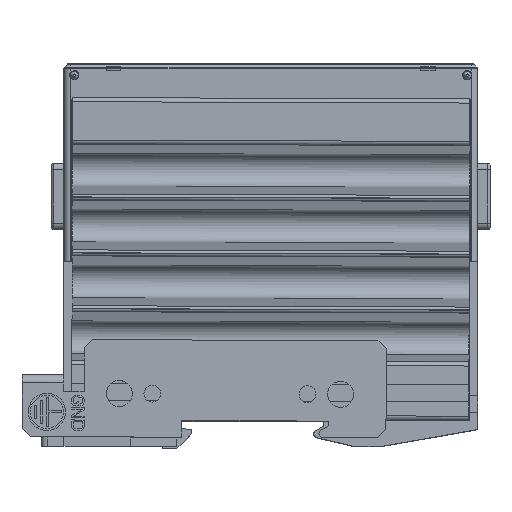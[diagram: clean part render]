
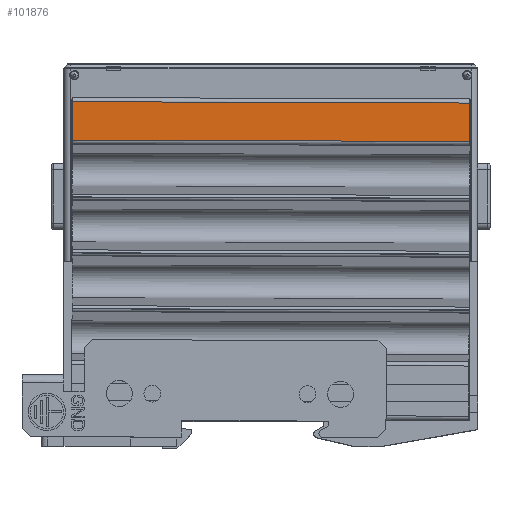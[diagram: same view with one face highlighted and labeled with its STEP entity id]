
A CAD part, top view. The second image highlights one B-rep face of the part: STEP entity #101876.
In plain terms, the highlighted planar face has unit normal (0, 0, 1) as drawn and (0, 0, -1) by its records, which use the part's own axes.
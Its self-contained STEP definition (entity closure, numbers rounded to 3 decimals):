
#89154=DIRECTION('',(-1.,0.,0.));
#89155=VECTOR('',#89154,9.284);
#89156=CARTESIAN_POINT('',(37.85,-48.,-41.5));
#89157=LINE('',#89156,#89155);
#90059=DIRECTION('',(-1.,0.,0.));
#90060=VECTOR('',#90059,9.284);
#90061=CARTESIAN_POINT('',(37.85,48.,-41.5));
#90062=LINE('',#90061,#90060);
#92930=DIRECTION('',(0.,1.,0.));
#92931=VECTOR('',#92930,96.);
#92932=CARTESIAN_POINT('',(28.566,-48.,-41.5));
#92933=LINE('',#92932,#92931);
#92934=DIRECTION('',(0.,-1.,0.));
#92935=VECTOR('',#92934,96.);
#92936=CARTESIAN_POINT('',(37.85,48.,-41.5));
#92937=LINE('',#92936,#92935);
#95028=CARTESIAN_POINT('',(28.566,48.,-41.5));
#95030=VERTEX_POINT('',#95028);
#95034=CARTESIAN_POINT('',(28.566,-48.,-41.5));
#95035=VERTEX_POINT('',#95034);
#95068=CARTESIAN_POINT('',(37.85,-48.,-41.5));
#95069=VERTEX_POINT('',#95068);
#95070=CARTESIAN_POINT('',(37.85,48.,-41.5));
#95071=VERTEX_POINT('',#95070);
#101863=CARTESIAN_POINT('',(38.85,-48.,-41.5));
#101864=DIRECTION('',(0.,0.,-1.));
#101865=DIRECTION('',(-1.,0.,0.));
#101866=AXIS2_PLACEMENT_3D('',#101863,#101864,#101865);
#101867=PLANE('',#101866);
#101869=ORIENTED_EDGE('',*,*,#101868,.F.);
#101870=ORIENTED_EDGE('',*,*,#96853,.F.);
#101872=ORIENTED_EDGE('',*,*,#101871,.F.);
#101873=ORIENTED_EDGE('',*,*,#98063,.T.);
#101874=EDGE_LOOP('',(#101869,#101870,#101872,#101873));
#101875=FACE_OUTER_BOUND('',#101874,.F.);
#96853=EDGE_CURVE('',#95069,#95035,#89157,.T.);
#98063=EDGE_CURVE('',#95071,#95030,#90062,.T.);
#101868=EDGE_CURVE('',#95035,#95030,#92933,.T.);
#101871=EDGE_CURVE('',#95071,#95069,#92937,.T.);
#101876=ADVANCED_FACE('',(#101875),#101867,.T.);
